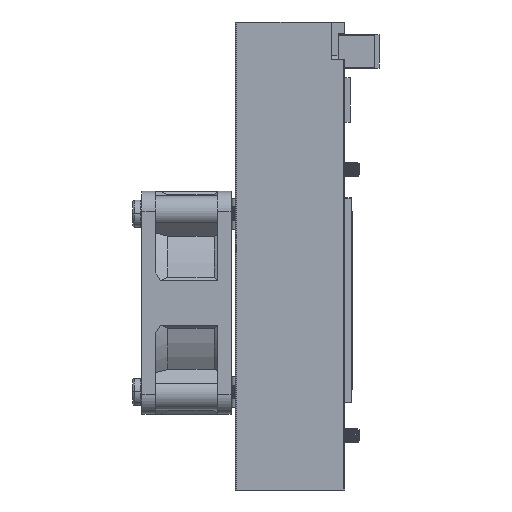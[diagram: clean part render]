
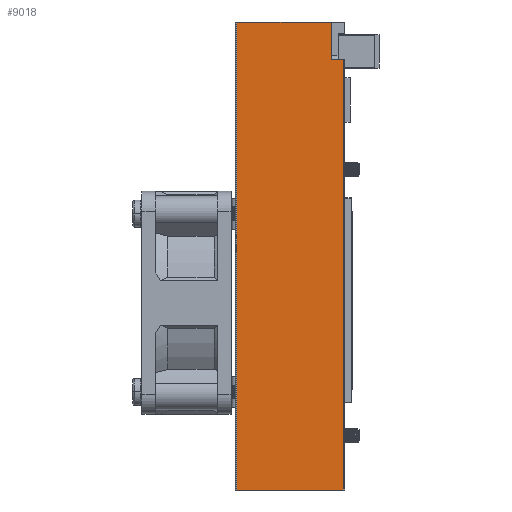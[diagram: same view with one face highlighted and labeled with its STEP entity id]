
A CAD part, left-side view. The second image highlights one B-rep face of the part: STEP entity #9018.
In plain terms, the highlighted planar face has unit normal (-1, 0, 0).
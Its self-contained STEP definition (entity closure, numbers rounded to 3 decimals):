
#10=DIRECTION('',(0.,-1.,0.));
#11=VECTOR('',#10,21.225);
#12=CARTESIAN_POINT('',(-35.,24.225,0.));
#13=LINE('',#12,#11);
#1850=DIRECTION('',(0.,-1.,0.));
#1851=VECTOR('',#1850,23.925);
#1852=CARTESIAN_POINT('',(-35.,24.225,-105.));
#1853=LINE('',#1852,#1851);
#3359=DIRECTION('',(0.,0.,-1.));
#3360=VECTOR('',#3359,8.5);
#3361=CARTESIAN_POINT('',(-35.,3.,0.));
#3362=LINE('',#3361,#3360);
#3363=DIRECTION('',(0.,1.,0.));
#3364=VECTOR('',#3363,2.7);
#3365=CARTESIAN_POINT('',(-35.,0.3,-8.5));
#3366=LINE('',#3365,#3364);
#3367=DIRECTION('',(0.,0.,-1.));
#3368=VECTOR('',#3367,105.);
#3369=CARTESIAN_POINT('',(-35.,24.225,0.));
#3370=LINE('',#3369,#3368);
#3532=DIRECTION('',(0.,0.,-1.));
#3533=VECTOR('',#3532,96.5);
#3534=CARTESIAN_POINT('',(-35.,0.3,-8.5));
#3535=LINE('',#3534,#3533);
#3892=CARTESIAN_POINT('',(-35.,24.225,0.));
#3893=VERTEX_POINT('',#3892);
#4104=CARTESIAN_POINT('',(-35.,24.225,-105.));
#4105=VERTEX_POINT('',#4104);
#4106=CARTESIAN_POINT('',(-35.,0.3,-105.));
#4107=VERTEX_POINT('',#4106);
#4650=CARTESIAN_POINT('',(-35.,3.,0.));
#4652=VERTEX_POINT('',#4650);
#4662=CARTESIAN_POINT('',(-35.,3.,-8.5));
#4663=VERTEX_POINT('',#4662);
#4664=CARTESIAN_POINT('',(-35.,0.3,-8.5));
#4665=VERTEX_POINT('',#4664);
#9003=CARTESIAN_POINT('',(-35.,24.225,0.));
#9004=DIRECTION('',(-1.,0.,0.));
#9005=DIRECTION('',(0.,-1.,0.));
#9006=AXIS2_PLACEMENT_3D('',#9003,#9004,#9005);
#9007=PLANE('',#9006);
#9008=ORIENTED_EDGE('',*,*,#4988,.T.);
#9010=ORIENTED_EDGE('',*,*,#9009,.F.);
#9012=ORIENTED_EDGE('',*,*,#9011,.T.);
#9013=ORIENTED_EDGE('',*,*,#6485,.F.);
#9014=ORIENTED_EDGE('',*,*,#8996,.F.);
#9015=ORIENTED_EDGE('',*,*,#4737,.T.);
#9016=EDGE_LOOP('',(#9008,#9010,#9012,#9013,#9014,#9015));
#9017=FACE_OUTER_BOUND('',#9016,.F.);
#9018=ADVANCED_FACE('',(#9017),#9007,.T.);
#4737=EDGE_CURVE('',#3893,#4652,#13,.T.);
#4988=EDGE_CURVE('',#4652,#4663,#3362,.T.);
#6485=EDGE_CURVE('',#4105,#4107,#1853,.T.);
#8996=EDGE_CURVE('',#3893,#4105,#3370,.T.);
#9009=EDGE_CURVE('',#4665,#4663,#3366,.T.);
#9011=EDGE_CURVE('',#4665,#4107,#3535,.T.);
